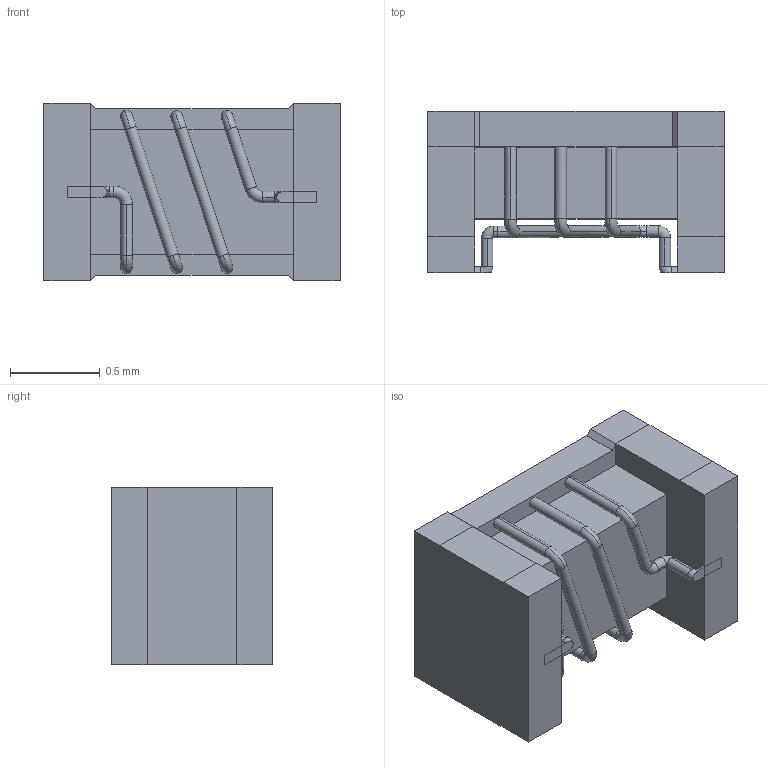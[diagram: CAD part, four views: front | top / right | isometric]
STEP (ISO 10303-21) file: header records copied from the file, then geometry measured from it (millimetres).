
FILE_DESCRIPTION (( 'STEP AP214' ), '1' );
FILE_NAME ('LQW18AN4N7B80D.STEP', '2022-07-28T11:44:04', ( '' ), ( '' ), 'SwSTEP 2.0', 'SolidWorks 2018', '' );
FILE_SCHEMA (( 'AUTOMOTIVE_DESIGN' ));
Length unit declared in the file: millimetre
Products named in the file (1): LQW18AN4N7B80D
Bounding box: 1.65 x 0.9 x 0.99 mm (x, y, z)
Volume: 1 mm3; surface area: 13.5 mm2
Topology: 5 solids, 5 shells, 116 faces, 294 edges, 188 vertices
Faces by surface type: plane 44, torus 36, cylinder 36
Entity records: 3674 total; most frequent: DIRECTION 678, CARTESIAN_POINT 671, ORIENTED_EDGE 588, EDGE_CURVE 294, AXIS2_PLACEMENT_3D 271, VERTEX_POINT 188, CIRCLE 154, LINE 136
